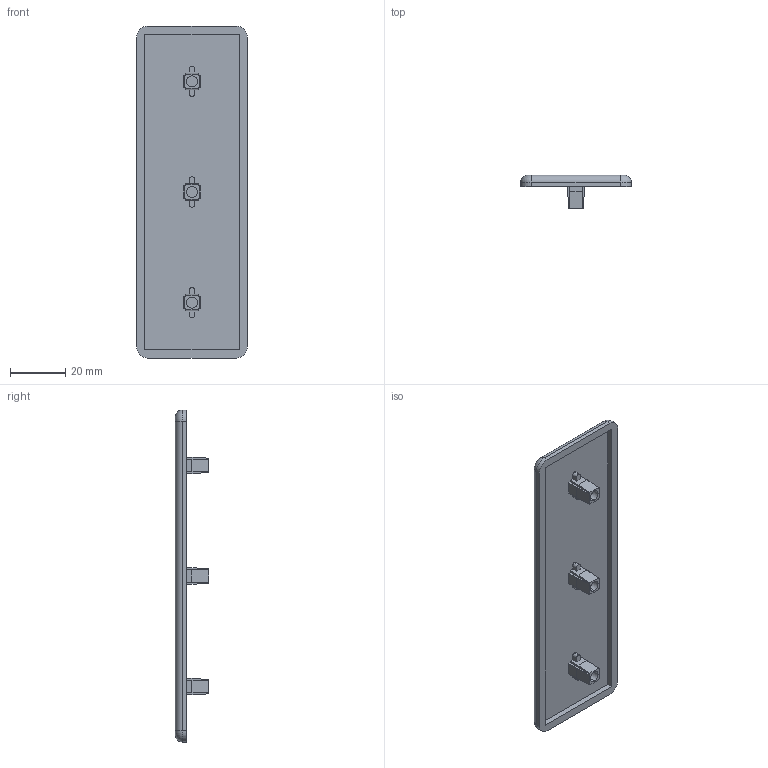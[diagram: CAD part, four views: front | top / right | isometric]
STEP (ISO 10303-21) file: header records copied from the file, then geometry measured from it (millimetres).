
FILE_DESCRIPTION (( 'STEP AP203' ), '1' );
FILE_NAME ('99900684_Abdeckkappe 8 40x120, grau.step', '2022-10-13T06:39:12', ( '' ), ( '' ), 'SwSTEP 2.0', 'SolidWorks 2021', '' );
FILE_SCHEMA (( 'CONFIG_CONTROL_DESIGN' ));
Length unit declared in the file: millimetre
Products named in the file (1): 99900684_Abdeckkappe 8 40x120, grau
Bounding box: 40 x 12 x 120 mm (x, y, z)
Volume: 11600.2 mm3; surface area: 12172.9 mm2
Topology: 1 solids, 1 shells, 110 faces, 295 edges, 194 vertices
Faces by surface type: plane 83, cylinder 23, torus 4
Entity records: 3482 total; most frequent: CARTESIAN_POINT 600, ORIENTED_EDGE 590, DIRECTION 567, EDGE_CURVE 295, VECTOR 245, LINE 245, VERTEX_POINT 194, AXIS2_PLACEMENT_3D 161
